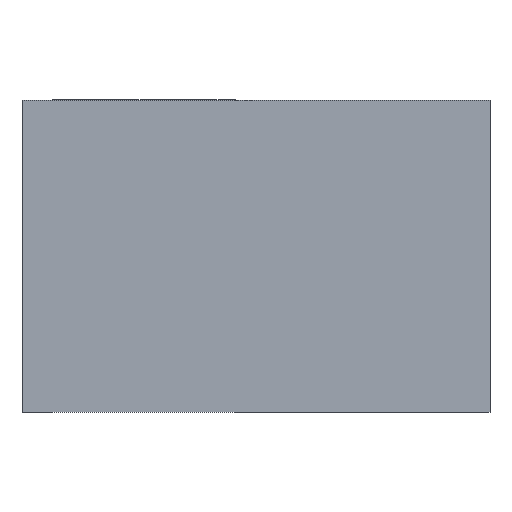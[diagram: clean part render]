
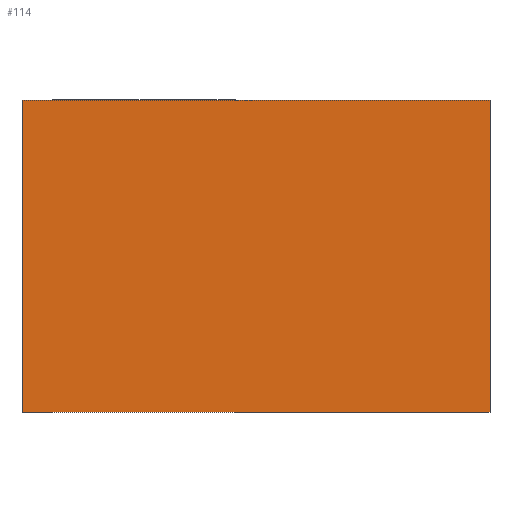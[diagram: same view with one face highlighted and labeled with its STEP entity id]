
A CAD part, front view. The second image highlights one B-rep face of the part: STEP entity #114.
In plain terms, the highlighted planar face has unit normal (0, -1, 0).
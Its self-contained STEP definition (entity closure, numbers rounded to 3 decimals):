
#82 = CARTESIAN_POINT ( 'NONE',  ( 1.5, 0., -1. ) ) ;
#114 = ADVANCED_FACE ( 'NONE', ( #1432 ), #1876, .T. ) ;
#191 = VERTEX_POINT ( 'NONE', #82 ) ;
#337 = LINE ( 'NONE', #3206, #1743 ) ;
#714 = EDGE_LOOP ( 'NONE', ( #2829, #873, #5682, #2579 ) ) ;
#840 = VECTOR ( 'NONE', #3024, 1000. ) ;
#857 = DIRECTION ( 'NONE',  ( -1., 0., 0. ) ) ;
#873 = ORIENTED_EDGE ( 'NONE', *, *, #4735, .F. ) ;
#1071 = CARTESIAN_POINT ( 'NONE',  ( 1.5, 0., 1. ) ) ;
#1132 = VECTOR ( 'NONE', #857, 1000. ) ;
#1258 = LINE ( 'NONE', #1071, #840 ) ;
#1432 = FACE_OUTER_BOUND ( 'NONE', #714, .T. ) ;
#1639 = EDGE_CURVE ( 'NONE', #4942, #5234, #1918, .T. ) ;
#1743 = VECTOR ( 'NONE', #3800, 1000. ) ;
#1815 = LINE ( 'NONE', #5668, #1132 ) ;
#1876 = PLANE ( 'NONE',  #2080 ) ;
#1918 = LINE ( 'NONE', #3847, #3365 ) ;
#2080 = AXIS2_PLACEMENT_3D ( 'NONE', #6232, #3299, #6144 ) ;
#2579 = ORIENTED_EDGE ( 'NONE', *, *, #2834, .F. ) ;
#2601 = VERTEX_POINT ( 'NONE', #4817 ) ;
#2829 = ORIENTED_EDGE ( 'NONE', *, *, #3458, .F. ) ;
#2834 = EDGE_CURVE ( 'NONE', #191, #4942, #1815, .T. ) ;
#3024 = DIRECTION ( 'NONE',  ( 0., 0., -1. ) ) ;
#3044 = CARTESIAN_POINT ( 'NONE',  ( -1.5, 0., 1. ) ) ;
#3206 = CARTESIAN_POINT ( 'NONE',  ( -1.5, 0., 1. ) ) ;
#3299 = DIRECTION ( 'NONE',  ( 0., -1., 0. ) ) ;
#3353 = CARTESIAN_POINT ( 'NONE',  ( -1.5, 0., -1. ) ) ;
#3365 = VECTOR ( 'NONE', #5776, 1000. ) ;
#3458 = EDGE_CURVE ( 'NONE', #2601, #191, #1258, .T. ) ;
#3800 = DIRECTION ( 'NONE',  ( 1., 0., 0. ) ) ;
#3847 = CARTESIAN_POINT ( 'NONE',  ( -1.5, 0., 1. ) ) ;
#4735 = EDGE_CURVE ( 'NONE', #5234, #2601, #337, .T. ) ;
#4817 = CARTESIAN_POINT ( 'NONE',  ( 1.5, 0., 1. ) ) ;
#4942 = VERTEX_POINT ( 'NONE', #3353 ) ;
#5234 = VERTEX_POINT ( 'NONE', #3044 ) ;
#5668 = CARTESIAN_POINT ( 'NONE',  ( -1.5, 0., -1. ) ) ;
#5682 = ORIENTED_EDGE ( 'NONE', *, *, #1639, .F. ) ;
#5776 = DIRECTION ( 'NONE',  ( 0., 0., 1. ) ) ;
#6144 = DIRECTION ( 'NONE',  ( 0., 0., -1. ) ) ;
#6232 = CARTESIAN_POINT ( 'NONE',  ( 0., 0., 0. ) ) ;
